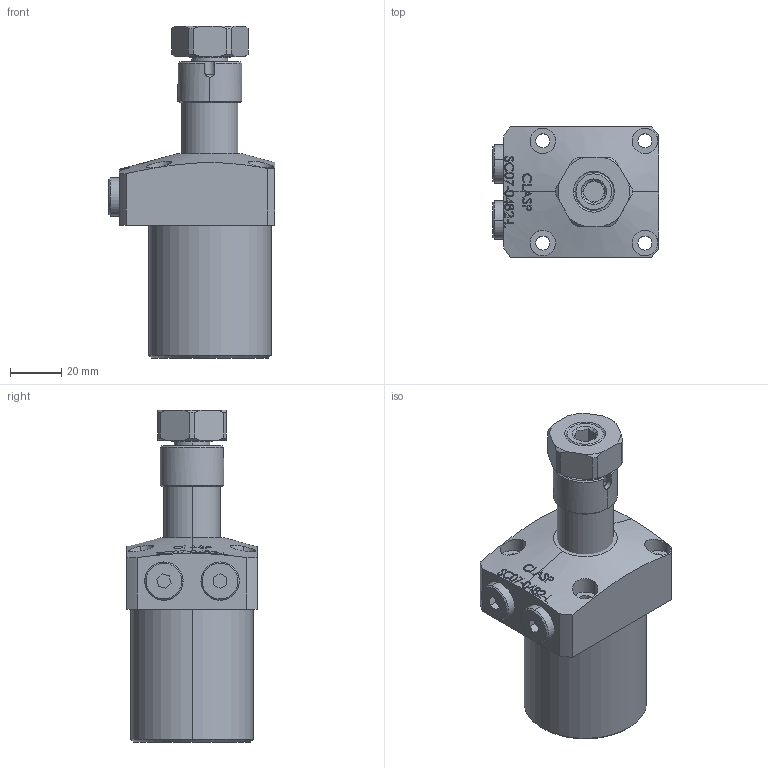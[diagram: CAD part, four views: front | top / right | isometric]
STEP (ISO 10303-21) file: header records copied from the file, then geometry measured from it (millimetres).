
FILE_DESCRIPTION (( 'STEP AP203' ), '1' );
FILE_NAME ('SC07-0482-L.STEP', '2022-07-05T17:51:23', ( '' ), ( '' ), 'SwSTEP 2.0', 'SolidWorks 2017', '' );
FILE_SCHEMA (( 'CONFIG_CONTROL_DESIGN' ));
Length unit declared in the file: millimetre
Products named in the file (6): SC-07-0482-L-05 plug; SC-07-0482-L-04 sleeve; SC-07-0482-L-03-nut; SC07-0482-L; SC-07-0482-L BODY; SC-07-0482-L-Piston
Assembly tree (6 placements, depth 2):
  SC07-0482-L
    SC-07-0482-L BODY
    SC-07-0482-L-Piston
    SC-07-0482-L-05 plug  x2
    SC-07-0482-L-04 sleeve
    SC-07-0482-L-03-nut
Bounding box: 65 x 51 x 130 mm (x, y, z)
Volume: 202157.7 mm3; surface area: 35147.5 mm2
Topology: 6 solids, 6 shells, 367 faces, 920 edges, 603 vertices
Faces by surface type: plane 157, bspline 95, cylinder 62, cone 51, sphere 2
Entity records: 16749 total; most frequent: CARTESIAN_POINT 8397, ORIENTED_EDGE 1772, DIRECTION 1245, EDGE_CURVE 886, VERTEX_POINT 582, AXIS2_PLACEMENT_3D 424, EDGE_LOOP 402, VECTOR 397
